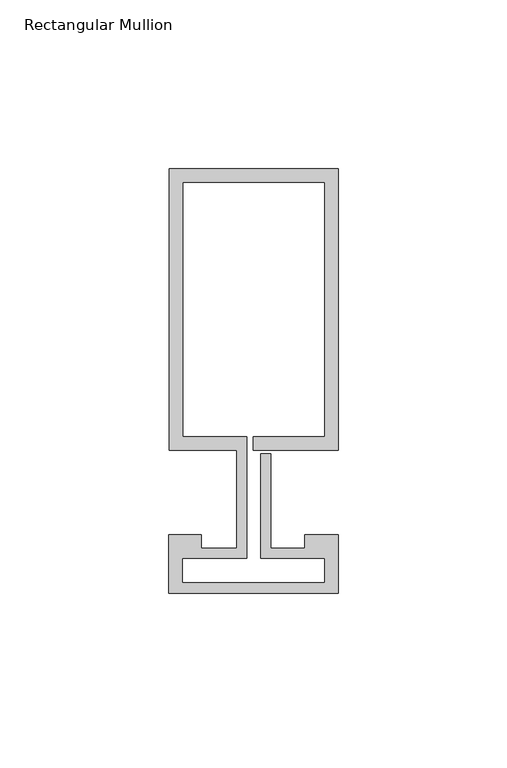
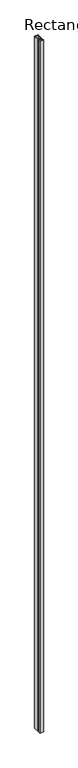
"""IFC4 building model written with IfcOpenShell, lengths in millimetres: member geometry, Rectangular Mullion : Reynaers_CW-50_Mullion-Transom_Vertical_83.5mm_Facecap-02B."""

from ifc_helpers import new_model, si_unit, frame, origin, place, context, project, spatial, polyline, outline, extrude, source, transform, mapped, element, save


def rectangular_mullion_15fb7f8c(model_context):
    return source(origin(), model_context, "Body", "SweptSolid", [
        extrude(outline(polyline([(-24.8004059, 96.0), (25.1995941, 96.0), (25.1995941, 12.5), (0.0, 12.5), (0.0, 16.5), (21.1995941, 16.5), (21.1995941, 92.0), (-20.8004059, 92.0), (-20.8004059, 16.5), (-1.9004059, 16.5), (-1.9004059, -19.5), (-20.994845, -19.5), (-20.994845, -26.7191338), (21.1995941, -26.7191338), (21.1995941, -19.5), (2.2995941, -19.5), (2.2995941, 11.5), (5.2995941, 11.5), (5.2995941, -16.5), (15.2996495, -16.5), (15.2996495, -12.5), (25.1995941, -12.5), (25.1995941, -29.8), (-24.994845, -29.8), (-24.994845, -12.5), (-15.2996495, -12.5), (-15.2996495, -16.5), (-4.9004059, -16.5), (-4.9004059, 12.5), (-24.8004059, 12.5), (-24.8004059, 96.0)])), frame((0.0, 0.0, -10400.0), z_axis=(0.0, 0.0, 1.0), x_axis=(1.0, 0.0, 0.0)), (0.0, 0.0, 1.0), 10400.0),
    ])


if __name__ == "__main__":
    model = new_model("IFC4")
    model_context = context("Model", 3, world=origin())
    ifc_project = project(units=[si_unit("LENGTHUNIT", "METRE", prefix="MILLI")], contexts=[model_context])
    site = spatial("IfcSite", under=ifc_project)
    building = spatial("IfcBuilding", under=site)
    placement = place(None, origin())
    rectangular_mullion_shape = rectangular_mullion_15fb7f8c(model_context)
    element("IfcMember", 1, ObjectType="Rectangular Mullion : Reynaers_CW-50_Mullion-Transom_Vertical_83.5mm_Facecap-02B", at=placement, inside=building, context=model_context, shape_type="MappedRepresentation", body=[
        mapped(rectangular_mullion_shape, transform((0.0, 0.0, 0.0), x_axis=(1.0, 0.0, 0.0), y_axis=(0.0, 1.0, 0.0), z_axis=(0.0, 0.0, 1.0))),
    ])
    save(model, "model.ifc")
